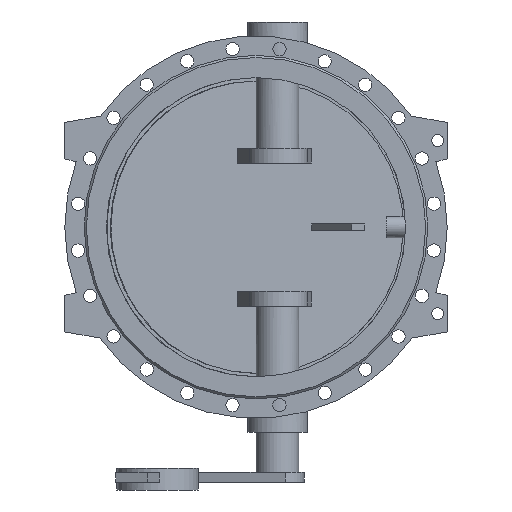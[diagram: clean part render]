
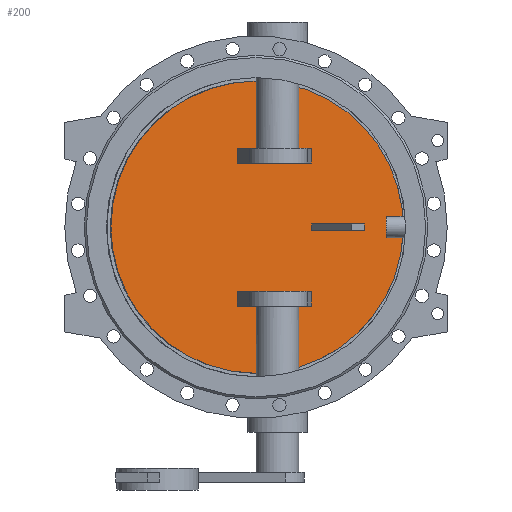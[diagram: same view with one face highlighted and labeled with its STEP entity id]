
A CAD part, front view. The second image highlights one B-rep face of the part: STEP entity #200.
In plain terms, the highlighted planar face has unit normal (0.131, -0.991, 0).
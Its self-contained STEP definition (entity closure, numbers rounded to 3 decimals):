
#200=ADVANCED_FACE('',(#1511,#1513,#1515,#1517),#1519,.T.);
#1511=FACE_BOUND('',#1512,.T.);
#1512=EDGE_LOOP('',(#2916));
#1513=FACE_BOUND('',#1514,.T.);
#1514=EDGE_LOOP('',(#2917,#2918,#2919,#2920));
#1515=FACE_BOUND('',#1516,.T.);
#1516=EDGE_LOOP('',(#2921,#2922,#2923,#2924));
#1517=FACE_BOUND('',#1518,.T.);
#1518=EDGE_LOOP('',(#2925,#2926,#2927,#2928));
#1519=PLANE('',#1520);
#1520=AXIS2_PLACEMENT_3D('',#1521,#1522,#1523);
#1521=CARTESIAN_POINT('',(-1.272,9.66,0.));
#1522=DIRECTION('',(0.131,-0.991,0.));
#1523=DIRECTION('',(0.,0.,-1.));
#2916=ORIENTED_EDGE('',*,*,#3500,.T.);
#2917=ORIENTED_EDGE('',*,*,#3504,.F.);
#2918=ORIENTED_EDGE('',*,*,#3505,.F.);
#2919=ORIENTED_EDGE('',*,*,#3506,.F.);
#2920=ORIENTED_EDGE('',*,*,#3507,.F.);
#2921=ORIENTED_EDGE('',*,*,#3508,.F.);
#2922=ORIENTED_EDGE('',*,*,#3509,.F.);
#2923=ORIENTED_EDGE('',*,*,#3510,.F.);
#2924=ORIENTED_EDGE('',*,*,#3511,.F.);
#2925=ORIENTED_EDGE('',*,*,#3512,.F.);
#2926=ORIENTED_EDGE('',*,*,#3513,.F.);
#2927=ORIENTED_EDGE('',*,*,#3514,.F.);
#2928=ORIENTED_EDGE('',*,*,#3515,.F.);
#3500=EDGE_CURVE('',#3827,#3827,#3828,.T.);
#3504=EDGE_CURVE('',#3835,#3836,#3837,.T.);
#3505=EDGE_CURVE('',#3838,#3835,#3839,.F.);
#3506=EDGE_CURVE('',#3840,#3838,#3841,.T.);
#3507=EDGE_CURVE('',#3836,#3840,#3842,.T.);
#3508=EDGE_CURVE('',#3843,#3844,#3845,.F.);
#3509=EDGE_CURVE('',#3846,#3843,#3847,.T.);
#3510=EDGE_CURVE('',#3848,#3846,#3849,.T.);
#3511=EDGE_CURVE('',#3844,#3848,#3850,.T.);
#3512=EDGE_CURVE('',#3851,#3852,#3853,.T.);
#3513=EDGE_CURVE('',#3854,#3851,#3855,.F.);
#3514=EDGE_CURVE('',#3856,#3854,#3857,.F.);
#3515=EDGE_CURVE('',#3852,#3856,#3858,.F.);
#3827=VERTEX_POINT('',#4971);
#3828=B_SPLINE_CURVE_WITH_KNOTS('',3,
(#4972,#4973,#4974,#4975,#4976,#4977,#4978,#4979,#4980,#4981,#4982,#4983,#4984,#4985,
#4986,#4987,#4988,#4989,#4990,#4991,#4992,#4993,#4994,#4995,#4996,#4997,#4998,#4999,
#5000,#5001,#5002,#5003,#5004,#5005,#5006,#5007,#5008,#5009,#5010,#5011,#5012,#5013,
#5014,#5015,#5016,#5017,#5018,#5019,#5020,#5021,#5022),
.UNSPECIFIED.,.T.,.F.,
(4,1,1,1,1,1,1,1,1,1,1,1,1,1,1,1,1,1,1,1,1,1,1,1,1,1,1,1,1,1,1,1,1,1,1,1,1,1,1,1,
1,1,1,1,1,1,1,1,4),
(0.,0.021,0.042,0.063,0.084,0.105,
0.126,0.147,0.168,0.189,0.211,
0.232,0.253,0.274,0.295,0.316,
0.337,0.358,0.379,0.4,0.421,
0.442,0.463,0.484,0.505,0.527,
0.548,0.569,0.59,0.611,0.632,
0.653,0.674,0.695,0.716,0.737,
0.758,0.779,0.8,0.821,0.842,
0.864,0.885,0.906,0.927,0.948,
0.969,0.986,1.),
.UNSPECIFIED.);
#3835=VERTEX_POINT('',#5085);
#3836=VERTEX_POINT('',#5086);
#3837=LINE('',#5087,#5088);
#3838=VERTEX_POINT('',#5090);
#3839=LINE('',#5091,#5092);
#3840=VERTEX_POINT('',#5094);
#3841=LINE('',#5095,#5096);
#3842=LINE('',#5098,#5099);
#3843=VERTEX_POINT('',#5101);
#3844=VERTEX_POINT('',#5102);
#3845=LINE('',#5103,#5104);
#3846=VERTEX_POINT('',#5106);
#3847=LINE('',#5107,#5108);
#3848=VERTEX_POINT('',#5110);
#3849=LINE('',#5111,#5112);
#3850=LINE('',#5114,#5115);
#3851=VERTEX_POINT('',#5117);
#3852=VERTEX_POINT('',#5118);
#3853=LINE('',#5119,#5120);
#3854=VERTEX_POINT('',#5122);
#3855=LINE('',#5123,#5124);
#3856=VERTEX_POINT('',#5126);
#3857=LINE('',#5127,#5128);
#3858=LINE('',#5130,#5131);
#4971=CARTESIAN_POINT('',(2.611,10.171,342.));
#4972=CARTESIAN_POINT('',(2.611,10.171,342.));
#4973=CARTESIAN_POINT('',(-12.418,8.193,342.));
#4974=CARTESIAN_POINT('',(-42.51,4.231,340.014));
#4975=CARTESIAN_POINT('',(-86.92,-1.616,331.113));
#4976=CARTESIAN_POINT('',(-129.828,-7.265,316.412));
#4977=CARTESIAN_POINT('',(-170.446,-12.612,296.163));
#4978=CARTESIAN_POINT('',(-208.026,-17.56,270.738));
#4979=CARTESIAN_POINT('',(-241.92,-22.022,240.578));
#4980=CARTESIAN_POINT('',(-271.535,-25.921,206.212));
#4981=CARTESIAN_POINT('',(-296.353,-29.188,168.242));
#4982=CARTESIAN_POINT('',(-315.942,-31.767,127.332));
#4983=CARTESIAN_POINT('',(-329.961,-33.613,84.197));
#4984=CARTESIAN_POINT('',(-338.164,-34.693,39.592));
#4985=CARTESIAN_POINT('',(-340.41,-34.988,-5.705));
#4986=CARTESIAN_POINT('',(-336.659,-34.495,-50.903));
#4987=CARTESIAN_POINT('',(-326.975,-33.22,-95.211));
#4988=CARTESIAN_POINT('',(-311.529,-31.186,-137.856));
#4989=CARTESIAN_POINT('',(-290.589,-28.429,-178.093));
#4990=CARTESIAN_POINT('',(-264.52,-24.997,-215.217));
#4991=CARTESIAN_POINT('',(-233.777,-20.95,-248.58));
#4992=CARTESIAN_POINT('',(-198.896,-16.358,-277.598));
#4993=CARTESIAN_POINT('',(-160.486,-11.301,-301.76));
#4994=CARTESIAN_POINT('',(-119.22,-5.868,-320.644));
#4995=CARTESIAN_POINT('',(-75.818,-0.154,-333.917));
#4996=CARTESIAN_POINT('',(-31.043,5.741,-341.346));
#4997=CARTESIAN_POINT('',(14.323,11.713,-342.801));
#4998=CARTESIAN_POINT('',(59.482,17.658,-338.255));
#4999=CARTESIAN_POINT('',(103.645,23.473,-327.789));
#5000=CARTESIAN_POINT('',(146.037,29.054,-311.587));
#5001=CARTESIAN_POINT('',(185.916,34.304,-289.934));
#5002=CARTESIAN_POINT('',(222.585,39.131,-263.21));
#5003=CARTESIAN_POINT('',(255.403,43.452,-231.884));
#5004=CARTESIAN_POINT('',(283.798,47.19,-196.505));
#5005=CARTESIAN_POINT('',(307.273,50.281,-157.691));
#5006=CARTESIAN_POINT('',(325.42,52.67,-116.122));
#5007=CARTESIAN_POINT('',(337.922,54.316,-72.524));
#5008=CARTESIAN_POINT('',(344.561,55.19,-27.66));
#5009=CARTESIAN_POINT('',(345.222,55.277,17.688));
#5010=CARTESIAN_POINT('',(339.893,54.575,62.727));
#5011=CARTESIAN_POINT('',(328.667,53.097,106.67));
#5012=CARTESIAN_POINT('',(311.739,50.869,148.75));
#5013=CARTESIAN_POINT('',(289.405,47.928,188.231));
#5014=CARTESIAN_POINT('',(262.053,44.327,224.422));
#5015=CARTESIAN_POINT('',(230.16,40.129,256.692));
#5016=CARTESIAN_POINT('',(194.294,35.407,284.466));
#5017=CARTESIAN_POINT('',(155.122,30.25,307.238));
#5018=CARTESIAN_POINT('',(113.213,24.732,324.688));
#5019=CARTESIAN_POINT('',(71.88,19.291,335.775));
#5020=CARTESIAN_POINT('',(34.719,14.398,341.04));
#5021=CARTESIAN_POINT('',(12.424,11.463,342.));
#5022=CARTESIAN_POINT('',(2.611,10.171,342.));
#5085=CARTESIAN_POINT('',(234.102,40.647,-7.5));
#5086=CARTESIAN_POINT('',(234.102,40.647,7.5));
#5087=CARTESIAN_POINT('',(234.102,40.647,-7.5));
#5088=VECTOR('',#5089,1.);
#5089=DIRECTION('',(0.,0.,1.));
#5090=CARTESIAN_POINT('',(130.,26.942,-7.5));
#5091=CARTESIAN_POINT('',(234.102,40.647,-7.5));
#5092=VECTOR('',#5093,1.);
#5093=DIRECTION('',(-0.991,-0.131,0.));
#5094=CARTESIAN_POINT('',(130.,26.942,7.5));
#5095=CARTESIAN_POINT('',(130.,26.942,7.5));
#5096=VECTOR('',#5097,1.);
#5097=DIRECTION('',(0.,0.,-1.));
#5098=CARTESIAN_POINT('',(234.102,40.647,7.5));
#5099=VECTOR('',#5100,1.);
#5100=DIRECTION('',(-0.991,-0.131,0.));
#5101=CARTESIAN_POINT('',(-44.007,4.034,-185.));
#5102=CARTESIAN_POINT('',(129.407,26.864,-185.));
#5103=CARTESIAN_POINT('',(129.407,26.864,-185.));
#5104=VECTOR('',#5105,1.);
#5105=DIRECTION('',(-0.991,-0.131,0.));
#5106=CARTESIAN_POINT('',(-44.007,4.034,-150.));
#5107=CARTESIAN_POINT('',(-44.007,4.034,-150.));
#5108=VECTOR('',#5109,1.);
#5109=DIRECTION('',(0.,0.,-1.));
#5110=CARTESIAN_POINT('',(129.407,26.864,-150.));
#5111=CARTESIAN_POINT('',(129.407,26.864,-150.));
#5112=VECTOR('',#5113,1.);
#5113=DIRECTION('',(-0.991,-0.131,0.));
#5114=CARTESIAN_POINT('',(129.407,26.864,-185.));
#5115=VECTOR('',#5116,1.);
#5116=DIRECTION('',(0.,0.,1.));
#5117=CARTESIAN_POINT('',(129.407,26.864,185.));
#5118=CARTESIAN_POINT('',(-44.007,4.034,185.));
#5119=CARTESIAN_POINT('',(129.407,26.864,185.));
#5120=VECTOR('',#5121,1.);
#5121=DIRECTION('',(-0.991,-0.131,0.));
#5122=CARTESIAN_POINT('',(129.407,26.864,150.));
#5123=CARTESIAN_POINT('',(129.407,26.864,185.));
#5124=VECTOR('',#5125,1.);
#5125=DIRECTION('',(0.,0.,-1.));
#5126=CARTESIAN_POINT('',(-44.007,4.034,150.));
#5127=CARTESIAN_POINT('',(129.407,26.864,150.));
#5128=VECTOR('',#5129,1.);
#5129=DIRECTION('',(-0.991,-0.131,0.));
#5130=CARTESIAN_POINT('',(-44.007,4.034,150.));
#5131=VECTOR('',#5132,1.);
#5132=DIRECTION('',(0.,0.,1.));
